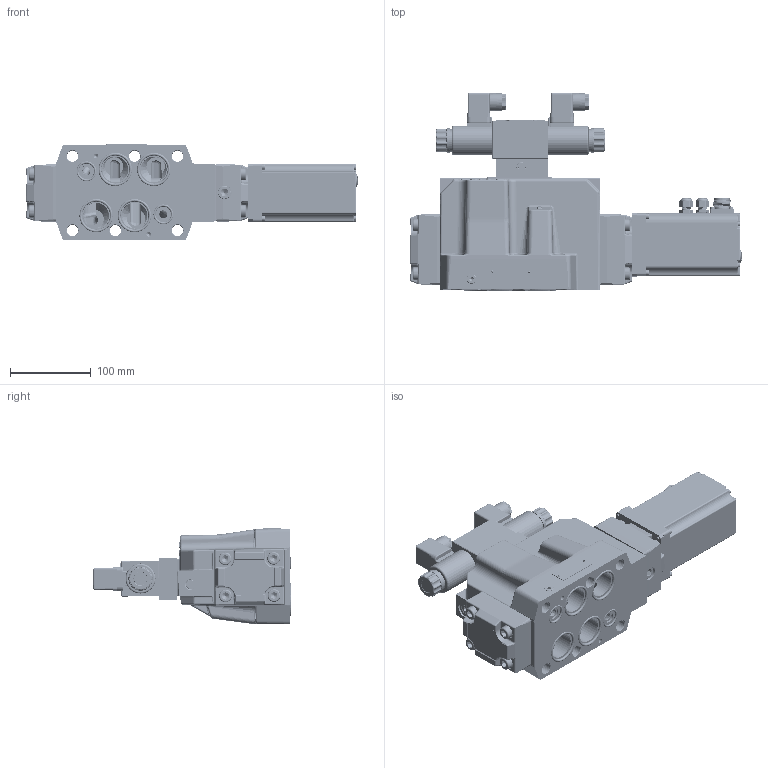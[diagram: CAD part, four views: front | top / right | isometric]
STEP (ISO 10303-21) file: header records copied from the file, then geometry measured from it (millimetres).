
FILE_DESCRIPTION(/* description */ (''),/* implementation_level */ '2;1');
FILE_NAME(/* name */ '4WRKE27.prt.stp',/* time_stamp */ '2023-11-15T13:47:50+08:00',/* author */ (''),/* organization */ (''),/* preprocessor_version */ 'ST-DEVELOPER v16.7',/* originating_system */ 'SIEMENS PLM Software NX 12.0',/* authorisation */ '');
FILE_SCHEMA (('AUTOMOTIVE_DESIGN { 1 0 10303 214 3 1 1 1 }'));
Products named in the file (1): 4WRKE27
Bounding box: 410.98 x 245.13 x 119.96 mm (x, y, z)
Volume: 1076592.2 mm3; surface area: 646899.1 mm2
Topology: 90 solids, 2255 shells, 7389 faces, 24517 edges, 19442 vertices
Faces by surface type: plane 2645, cylinder 2121, bspline 1230, extrusion 642, cone 301, sphere 194, torus 182, revolution 74
Full cylindrical faces by diameter (mm): 1 x2, 1.5 x7, 1.8 x4, 1.9 x2, 2 x6, 2.5 x22, 3 x5, 3.2 x56, 3.242 x13, 3.3 x4, 3.5 x5, 4 x1, 4.2 x4, 4.5 x3, 4.7 x2, 5 x24, 5.3 x4, 5.4 x4, 5.5 x6, 6 x10, 6.4 x2, 6.5 x6, 6.78 x4, 6.8 x1, 7 x18, 7.4 x3, 7.8 x1, 8 x7, 8.2 x1, 8.5 x17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
Entity records: 626074 total; most frequent: CARTESIAN_POINT 407824, ORIENTED_EDGE 33672, DIRECTION 32283, EDGE_CURVE 22129, VERTEX_POINT 18232, AXIS2_PLACEMENT_3D 11497, VECTOR 9215, LINE 8573
